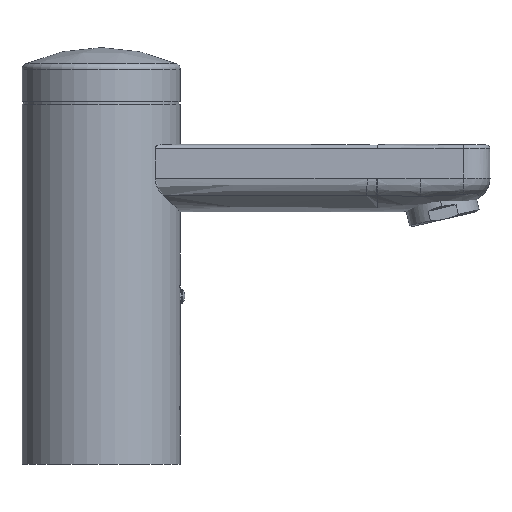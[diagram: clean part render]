
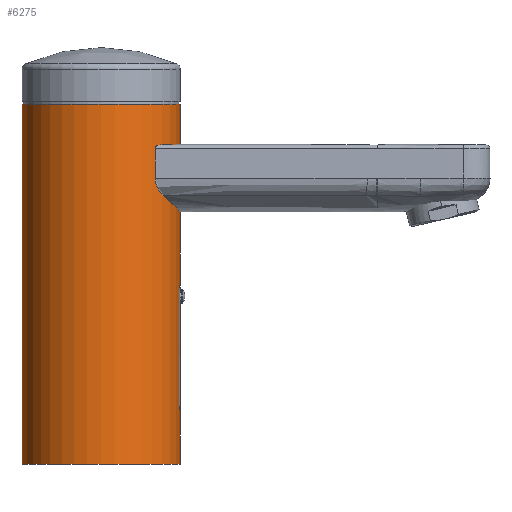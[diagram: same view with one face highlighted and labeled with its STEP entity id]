
A CAD part, left-side view. The second image highlights one B-rep face of the part: STEP entity #6275.
In plain terms, the highlighted cylindrical face has radius 26.5 mm (diameter 53 mm), a partial arc.
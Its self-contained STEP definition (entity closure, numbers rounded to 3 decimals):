
#5828=CARTESIAN_POINT('',(0.,0.,120.5));
#5829=DIRECTION('',(0.,0.,-1.));
#5830=DIRECTION('',(0.,-1.,0.));
#5831=AXIS2_PLACEMENT_3D('',#5828,#5829,#5830);
#5833=CARTESIAN_POINT('',(0.,0.,120.5));
#5834=DIRECTION('',(0.,0.,-1.));
#5835=DIRECTION('',(-1.,0.,0.));
#5836=AXIS2_PLACEMENT_3D('',#5833,#5834,#5835);
#5868=DIRECTION('',(0.,0.,-1.));
#5869=VECTOR('',#5868,60.5);
#5870=CARTESIAN_POINT('',(0.,-26.5,120.5));
#5871=LINE('',#5870,#5869);
#5872=DIRECTION('',(0.,0.,-1.));
#5873=VECTOR('',#5872,39.2);
#5874=CARTESIAN_POINT('',(-5.1,-26.005,58.75));
#5875=LINE('',#5874,#5873);
#5876=DIRECTION('',(0.,0.,-1.));
#5877=VECTOR('',#5876,18.3);
#5878=CARTESIAN_POINT('',(0.,-26.5,18.3));
#5879=LINE('',#5878,#5877);
#5880=DIRECTION('',(0.,0.,1.));
#5881=VECTOR('',#5880,120.5);
#5882=CARTESIAN_POINT('',(0.,26.5,0.));
#5883=LINE('',#5882,#5881);
#5898=CARTESIAN_POINT('',(0.,0.,0.));
#5899=DIRECTION('',(0.,0.,1.));
#5900=DIRECTION('',(0.,1.,0.));
#5901=AXIS2_PLACEMENT_3D('',#5898,#5899,#5900);
#5903=CARTESIAN_POINT('',(0.,0.,0.));
#5904=DIRECTION('',(0.,0.,1.));
#5905=DIRECTION('',(-1.,0.,0.));
#5906=AXIS2_PLACEMENT_3D('',#5903,#5904,#5905);
#5913=CARTESIAN_POINT('',(0.,0.,18.3));
#5914=DIRECTION('',(0.,0.,-1.));
#5915=DIRECTION('',(0.,-1.,0.));
#5916=AXIS2_PLACEMENT_3D('',#5913,#5914,#5915);
#6016=CARTESIAN_POINT('',(-3.85,-26.219,18.3));
#6017=CARTESIAN_POINT('',(-3.982,-26.199,18.3));
#6018=CARTESIAN_POINT('',(-4.245,-26.159,
18.342));
#6019=CARTESIAN_POINT('',(-4.6,-26.099,
18.524));
#6020=CARTESIAN_POINT('',(-4.879,-26.047,
18.804));
#6021=CARTESIAN_POINT('',(-5.06,-26.012,
19.162));
#6022=CARTESIAN_POINT('',(-5.1,-26.005,19.421));
#6023=CARTESIAN_POINT('',(-5.1,-26.005,19.55));
#6037=CARTESIAN_POINT('',(-5.1,-26.005,58.75));
#6038=CARTESIAN_POINT('',(-5.1,-26.005,58.88));
#6039=CARTESIAN_POINT('',(-5.059,-26.013,
59.14));
#6040=CARTESIAN_POINT('',(-4.879,-26.047,
59.495));
#6041=CARTESIAN_POINT('',(-4.601,-26.098,
59.775));
#6042=CARTESIAN_POINT('',(-4.247,-26.158,
59.958));
#6043=CARTESIAN_POINT('',(-3.983,-26.199,60.));
#6044=CARTESIAN_POINT('',(-3.85,-26.219,60.));
#6054=CARTESIAN_POINT('',(0.,0.,60.));
#6055=DIRECTION('',(0.,0.,1.));
#6056=DIRECTION('',(-0.145,-0.989,0.));
#6057=AXIS2_PLACEMENT_3D('',#6054,#6055,#6056);
#6111=CARTESIAN_POINT('',(-26.5,0.,120.5));
#6112=CARTESIAN_POINT('',(0.,26.5,120.5));
#6113=VERTEX_POINT('',#6111);
#6114=VERTEX_POINT('',#6112);
#6115=CARTESIAN_POINT('',(0.,-26.5,120.5));
#6116=VERTEX_POINT('',#6115);
#6119=CARTESIAN_POINT('',(0.,-26.5,60.));
#6120=VERTEX_POINT('',#6119);
#6121=CARTESIAN_POINT('',(-3.85,-26.219,60.));
#6122=VERTEX_POINT('',#6121);
#6123=VERTEX_POINT('',#6037);
#6124=CARTESIAN_POINT('',(-5.1,-26.005,19.55));
#6125=VERTEX_POINT('',#6124);
#6126=VERTEX_POINT('',#6016);
#6127=CARTESIAN_POINT('',(0.,-26.5,18.3));
#6128=VERTEX_POINT('',#6127);
#6129=CARTESIAN_POINT('',(0.,-26.5,0.));
#6130=VERTEX_POINT('',#6129);
#6131=CARTESIAN_POINT('',(-26.5,0.,0.));
#6132=VERTEX_POINT('',#6131);
#6133=CARTESIAN_POINT('',(0.,26.5,0.));
#6134=VERTEX_POINT('',#6133);
#6246=CARTESIAN_POINT('',(0.,0.,60.25));
#6247=DIRECTION('',(0.,0.,-1.));
#6248=DIRECTION('',(1.,0.,0.));
#6249=AXIS2_PLACEMENT_3D('',#6246,#6247,#6248);
#6250=CYLINDRICAL_SURFACE('',#6249,26.5);
#6252=ORIENTED_EDGE('',*,*,#6251,.T.);
#6254=ORIENTED_EDGE('',*,*,#6253,.F.);
#6256=ORIENTED_EDGE('',*,*,#6255,.F.);
#6258=ORIENTED_EDGE('',*,*,#6257,.T.);
#6260=ORIENTED_EDGE('',*,*,#6259,.F.);
#6262=ORIENTED_EDGE('',*,*,#6261,.F.);
#6264=ORIENTED_EDGE('',*,*,#6263,.T.);
#6266=ORIENTED_EDGE('',*,*,#6265,.F.);
#6268=ORIENTED_EDGE('',*,*,#6267,.F.);
#6270=ORIENTED_EDGE('',*,*,#6269,.T.);
#6271=ORIENTED_EDGE('',*,*,#6231,.F.);
#6272=ORIENTED_EDGE('',*,*,#6229,.F.);
#6273=EDGE_LOOP('',(#6252,#6254,#6256,#6258,#6260,#6262,#6264,#6266,#6268,#6270,
#6271,#6272));
#6274=FACE_OUTER_BOUND('',#6273,.F.);
#6275=ADVANCED_FACE('',(#6274),#6250,.T.);
#5832=CIRCLE('',#5831,26.5);
#5837=CIRCLE('',#5836,26.5);
#5902=CIRCLE('',#5901,26.5);
#5907=CIRCLE('',#5906,26.5);
#5917=CIRCLE('',#5916,26.5);
#6024=B_SPLINE_CURVE_WITH_KNOTS('',3,(#6016,#6017,#6018,#6019,#6020,#6021,#6022,
#6023),.UNSPECIFIED.,.F.,.F.,(4,1,1,1,1,4),(0.,0.2,0.4,0.6,0.8,1.),
.UNSPECIFIED.);
#6045=B_SPLINE_CURVE_WITH_KNOTS('',3,(#6037,#6038,#6039,#6040,#6041,#6042,#6043,
#6044),.UNSPECIFIED.,.F.,.F.,(4,1,1,1,1,4),(0.,0.2,0.4,0.6,0.8,1.),
.UNSPECIFIED.);
#6058=CIRCLE('',#6057,26.5);
#6229=EDGE_CURVE('',#6116,#6113,#5832,.T.);
#6231=EDGE_CURVE('',#6113,#6114,#5837,.T.);
#6251=EDGE_CURVE('',#6116,#6120,#5871,.T.);
#6253=EDGE_CURVE('',#6122,#6120,#6058,.T.);
#6255=EDGE_CURVE('',#6123,#6122,#6045,.T.);
#6257=EDGE_CURVE('',#6123,#6125,#5875,.T.);
#6259=EDGE_CURVE('',#6126,#6125,#6024,.T.);
#6261=EDGE_CURVE('',#6128,#6126,#5917,.T.);
#6263=EDGE_CURVE('',#6128,#6130,#5879,.T.);
#6265=EDGE_CURVE('',#6132,#6130,#5907,.T.);
#6267=EDGE_CURVE('',#6134,#6132,#5902,.T.);
#6269=EDGE_CURVE('',#6134,#6114,#5883,.T.);
